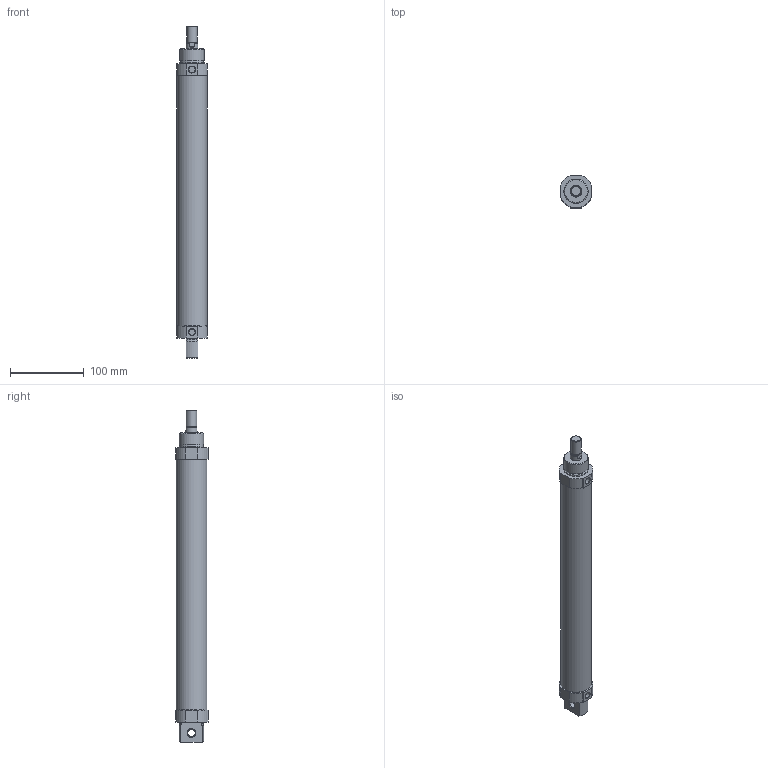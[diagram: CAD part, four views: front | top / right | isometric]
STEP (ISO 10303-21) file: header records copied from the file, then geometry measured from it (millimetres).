
FILE_DESCRIPTION((''),'2;1');
FILE_NAME('I:\3D電子目錄\氣缸\SDA\SDA40\SDA40\SDA40x300.stp','2007-08-06T10:37:35',('Administrator'),(''),'Autodesk Inventor 2008','Autodesk Inventor 2008','');
FILE_SCHEMA(('AUTOMOTIVE_DESIGN { 1 0 10303 214 1 1 1 1 }'));
Length unit declared in the file: millimetre
Products named in the file (1): SDA40X300
Bounding box: 42 x 43.5 x 450 mm (x, y, z)
Volume: 549284.8 mm3; surface area: 59704 mm2
Topology: 1 solids, 1 shells, 65 faces, 152 edges, 98 vertices
Faces by surface type: plane 27, cylinder 21, cone 12, torus 3, bspline 2
Full cylindrical faces by diameter (mm): 8.5 x2, 10 x1, 12.6 x1, 14 x1, 16 x1, 33 x2, 41.8 x1
Entity records: 1946 total; most frequent: CARTESIAN_POINT 486, DIRECTION 306, ORIENTED_EDGE 266, EDGE_CURVE 133, AXIS2_PLACEMENT_3D 121, VERTEX_POINT 97, EDGE_LOOP 94, FACE_OUTER_BOUND 65
